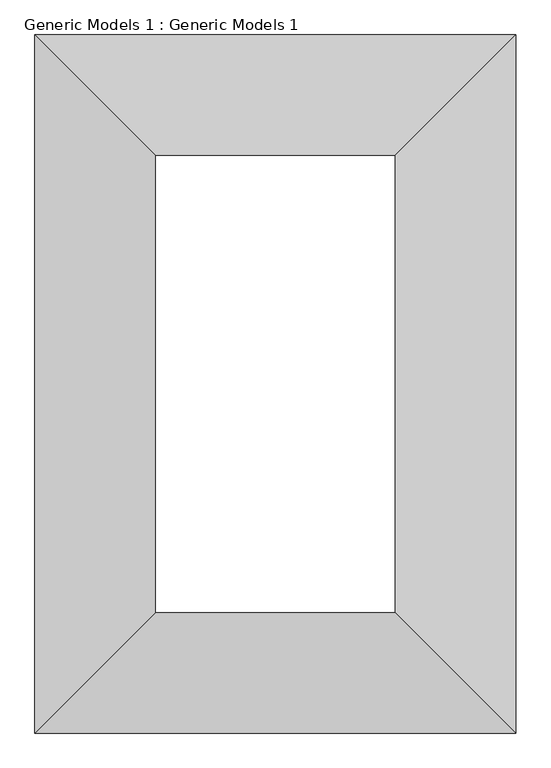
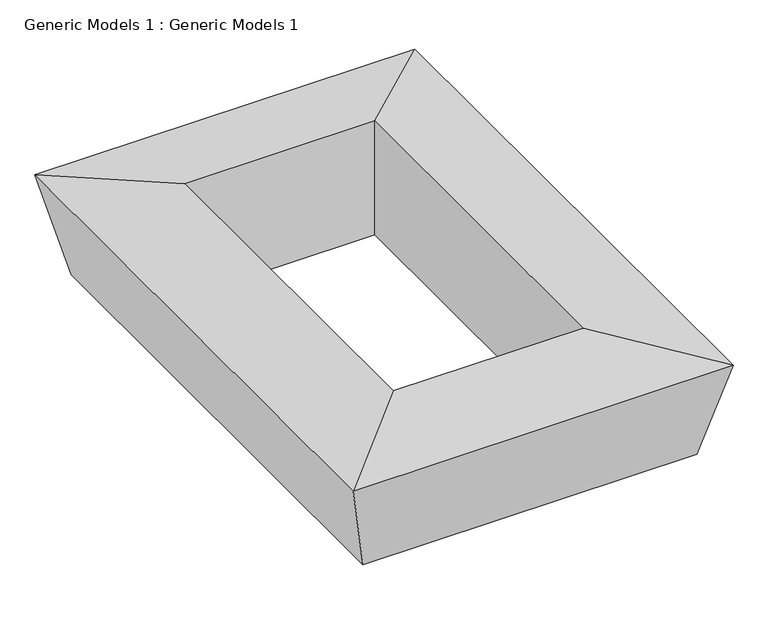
"""IFC4 building model written with IfcOpenShell, lengths in millimetres: proxy geometry, Generic Models 1 : Generic Models 1."""

from ifc_helpers import new_model, si_unit, origin, place, context, project, spatial, faceted_brep, source, transform, mapped, element, save


def generic_models_1_generic_models_1_bd69fa78(model_context):
    return source(origin(), model_context, "Body", "Brep", [
        faceted_brep([(40914.1830624, 30793.7215248, 600.0), (40914.1830624, 30793.7215248, 1000.0), (40914.1830624, 29593.7215248, 1000.0), (40914.1830624, 29593.7215248, 600.0), (40674.6061519, 31033.2984353, 618.6551492), (40674.6061519, 29354.1446143, 618.6551492), (40598.1227934, 31109.7817938, 949.9409712), (40598.1227934, 29277.6612558, 949.9409712), (41544.1830624, 29593.7215248, 1000.0), (41544.1830624, 29593.7215248, 600.0), (41783.7599729, 29354.1446143, 618.6551492), (41860.2433314, 29277.6612558, 949.9409712), (41544.1830624, 30793.7215248, 1000.0), (41544.1830624, 30793.7215248, 600.0), (41783.7599729, 31033.2984353, 618.6551492), (41860.2433314, 31109.7817938, 949.9409712)], [[[0, 1, 2, 3]], [[4, 0, 3, 5]], [[6, 4, 5, 7]], [[1, 6, 7, 2]], [[3, 2, 8, 9]], [[5, 3, 9, 10]], [[7, 5, 10, 11]], [[2, 7, 11, 8]], [[9, 8, 12, 13]], [[10, 9, 13, 14]], [[11, 10, 14, 15]], [[8, 11, 15, 12]], [[13, 12, 1, 0]], [[14, 13, 0, 4]], [[15, 14, 4, 6]], [[12, 15, 6, 1]]]),
    ])


if __name__ == "__main__":
    model = new_model("IFC4")
    model_context = context("Model", 3, world=origin())
    ifc_project = project(units=[si_unit("LENGTHUNIT", "METRE", prefix="MILLI")], contexts=[model_context])
    site = spatial("IfcSite", under=ifc_project)
    building = spatial("IfcBuilding", under=site)
    placement = place(None, origin())
    generic_models_1_generic_models_1_shape = generic_models_1_generic_models_1_bd69fa78(model_context)
    element("IfcBuildingElementProxy", 1, Name="Generic Models 1 : Generic Models 1", ObjectType="Generic Models 1 : Generic Models 1", at=placement, inside=building, context=model_context, shape_type="MappedRepresentation", body=[
        mapped(generic_models_1_generic_models_1_shape, transform((0.0, 0.0, 0.0), x_axis=(1.0, 0.0, 0.0), y_axis=(0.0, 1.0, 0.0), z_axis=(0.0, 0.0, 1.0))),
    ])
    save(model, "model.ifc")
